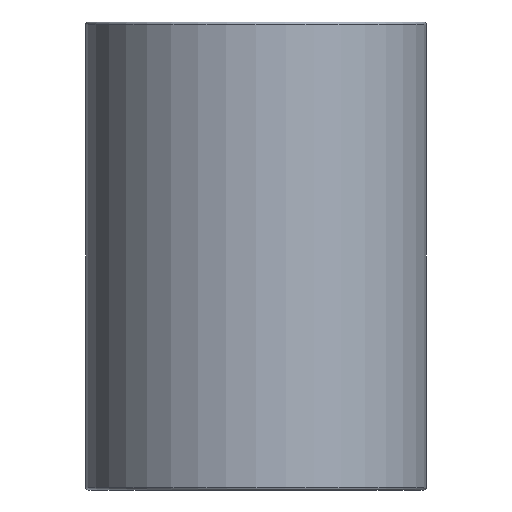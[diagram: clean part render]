
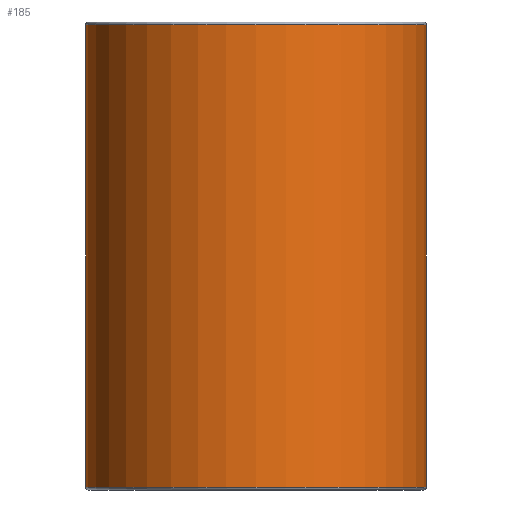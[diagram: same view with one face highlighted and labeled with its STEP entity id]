
A CAD part, front view. The second image highlights one B-rep face of the part: STEP entity #185.
In plain terms, the highlighted cylindrical face has radius 60 mm (diameter 120 mm), a partial arc.
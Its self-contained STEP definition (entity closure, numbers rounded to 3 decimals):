
#1 = CARTESIAN_POINT ( 'NONE',  ( -60., 0., 165. ) ) ;
#32 = DIRECTION ( 'NONE',  ( 1., 0., 0. ) ) ;
#48 = VERTEX_POINT ( 'NONE', #280 ) ;
#55 = EDGE_CURVE ( 'NONE', #117, #275, #237, .T. ) ;
#56 = DIRECTION ( 'NONE',  ( 0., 0., -1. ) ) ;
#61 = DIRECTION ( 'NONE',  ( 0., 0., -1. ) ) ;
#80 = CARTESIAN_POINT ( 'NONE',  ( 60., 0., 164. ) ) ;
#86 = LINE ( 'NONE', #130, #242 ) ;
#87 = CARTESIAN_POINT ( 'NONE',  ( 0., 0., 165. ) ) ;
#89 = AXIS2_PLACEMENT_3D ( 'NONE', #87, #194, #241 ) ;
#94 = VERTEX_POINT ( 'NONE', #80 ) ;
#106 = CARTESIAN_POINT ( 'NONE',  ( 0., 0., 1. ) ) ;
#107 = DIRECTION ( 'NONE',  ( 0., 0., 1. ) ) ;
#108 = CARTESIAN_POINT ( 'NONE',  ( 0., 0., 164. ) ) ;
#113 = CIRCLE ( 'NONE', #213, 60. ) ;
#114 = ORIENTED_EDGE ( 'NONE', *, *, #192, .T. ) ;
#117 = VERTEX_POINT ( 'NONE', #147 ) ;
#123 = VECTOR ( 'NONE', #56, 1000. ) ;
#129 = CYLINDRICAL_SURFACE ( 'NONE', #89, 60. ) ;
#130 = CARTESIAN_POINT ( 'NONE',  ( 60., 0., 165. ) ) ;
#147 = CARTESIAN_POINT ( 'NONE',  ( -60., 0., 164. ) ) ;
#153 = DIRECTION ( 'NONE',  ( 1., 0., 0. ) ) ;
#159 = ORIENTED_EDGE ( 'NONE', *, *, #263, .T. ) ;
#181 = ORIENTED_EDGE ( 'NONE', *, *, #249, .F. ) ;
#185 = ADVANCED_FACE ( 'NONE', ( #292 ), #129, .T. ) ;
#192 = EDGE_CURVE ( 'NONE', #275, #48, #230, .T. ) ;
#194 = DIRECTION ( 'NONE',  ( 0., 0., -1. ) ) ;
#208 = AXIS2_PLACEMENT_3D ( 'NONE', #106, #107, #32 ) ;
#213 = AXIS2_PLACEMENT_3D ( 'NONE', #108, #61, #153 ) ;
#221 = DIRECTION ( 'NONE',  ( 0., 0., -1. ) ) ;
#230 = CIRCLE ( 'NONE', #208, 60. ) ;
#237 = LINE ( 'NONE', #1, #123 ) ;
#241 = DIRECTION ( 'NONE',  ( -1., 0., 0. ) ) ;
#242 = VECTOR ( 'NONE', #221, 1000. ) ;
#248 = ORIENTED_EDGE ( 'NONE', *, *, #55, .T. ) ;
#249 = EDGE_CURVE ( 'NONE', #94, #48, #86, .T. ) ;
#253 = EDGE_LOOP ( 'NONE', ( #181, #159, #248, #114 ) ) ;
#263 = EDGE_CURVE ( 'NONE', #94, #117, #113, .T. ) ;
#269 = CARTESIAN_POINT ( 'NONE',  ( -60., 0., 1. ) ) ;
#275 = VERTEX_POINT ( 'NONE', #269 ) ;
#280 = CARTESIAN_POINT ( 'NONE',  ( 60., 0., 1. ) ) ;
#292 = FACE_OUTER_BOUND ( 'NONE', #253, .T. ) ;
